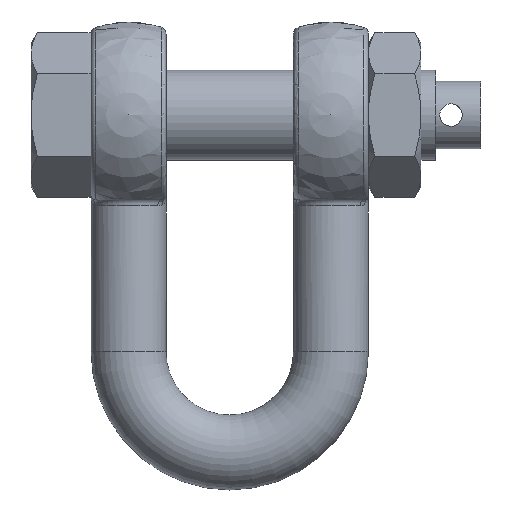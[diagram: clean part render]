
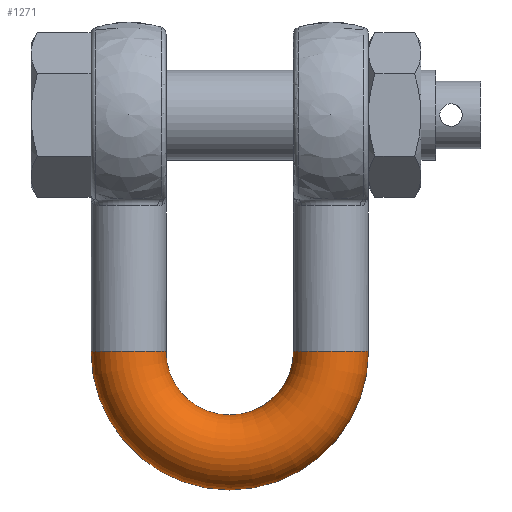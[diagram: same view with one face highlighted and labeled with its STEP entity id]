
A CAD part, top view. The second image highlights one B-rep face of the part: STEP entity #1271.
In plain terms, the highlighted toroidal (fillet/blend) face has major radius 13.5 mm and minor radius 5 mm.
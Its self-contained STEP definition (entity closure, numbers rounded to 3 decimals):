
#122=TOROIDAL_SURFACE('',#1442,13.5,5.);
#233=FACE_OUTER_BOUND('',#320,.T.);
#320=EDGE_LOOP('',(#1018,#1019,#1020,#1021,#1022,#1023));
#477=CIRCLE('',#1440,5.);
#478=CIRCLE('',#1441,5.);
#479=CIRCLE('',#1443,8.5);
#480=CIRCLE('',#1444,5.);
#481=CIRCLE('',#1445,5.);
#570=VERTEX_POINT('',#2836);
#571=VERTEX_POINT('',#2838);
#572=VERTEX_POINT('',#2842);
#573=VERTEX_POINT('',#2844);
#730=EDGE_CURVE('',#570,#571,#477,.T.);
#731=EDGE_CURVE('',#571,#570,#478,.T.);
#732=EDGE_CURVE('',#571,#572,#479,.T.);
#733=EDGE_CURVE('',#572,#573,#480,.T.);
#734=EDGE_CURVE('',#573,#572,#481,.T.);
#1018=ORIENTED_EDGE('',*,*,#731,.F.);
#1019=ORIENTED_EDGE('',*,*,#732,.T.);
#1020=ORIENTED_EDGE('',*,*,#733,.T.);
#1021=ORIENTED_EDGE('',*,*,#734,.T.);
#1022=ORIENTED_EDGE('',*,*,#732,.F.);
#1023=ORIENTED_EDGE('',*,*,#730,.F.);
#1271=ADVANCED_FACE('',(#233),#122,.T.);
#1440=AXIS2_PLACEMENT_3D('',#2839,#1671,#1672);
#1441=AXIS2_PLACEMENT_3D('',#2840,#1673,#1674);
#1442=AXIS2_PLACEMENT_3D('',#2841,#1675,#1676);
#1443=AXIS2_PLACEMENT_3D('',#2843,#1677,#1678);
#1444=AXIS2_PLACEMENT_3D('',#2845,#1679,#1680);
#1445=AXIS2_PLACEMENT_3D('',#2846,#1681,#1682);
#1671=DIRECTION('center_axis',(0.,1.,0.));
#1672=DIRECTION('ref_axis',(1.,0.,0.));
#1673=DIRECTION('center_axis',(0.,1.,0.));
#1674=DIRECTION('ref_axis',(1.,0.,0.));
#1675=DIRECTION('center_axis',(0.,0.,-1.));
#1676=DIRECTION('ref_axis',(-1.,0.,0.));
#1677=DIRECTION('center_axis',(0.,0.,1.));
#1678=DIRECTION('ref_axis',(-1.,0.,0.));
#1679=DIRECTION('center_axis',(0.,-1.,0.));
#1680=DIRECTION('ref_axis',(-1.,0.,0.));
#1681=DIRECTION('center_axis',(0.,-1.,0.));
#1682=DIRECTION('ref_axis',(-1.,0.,0.));
#2836=CARTESIAN_POINT('',(-18.5,18.5,0.));
#2838=CARTESIAN_POINT('',(-8.5,18.5,0.));
#2839=CARTESIAN_POINT('Origin',(-13.5,18.5,0.));
#2840=CARTESIAN_POINT('Origin',(-13.5,18.5,0.));
#2841=CARTESIAN_POINT('Origin',(0.,18.5,0.));
#2842=CARTESIAN_POINT('',(8.5,18.5,0.));
#2843=CARTESIAN_POINT('Origin',(0.,18.5,0.));
#2844=CARTESIAN_POINT('',(18.5,18.5,0.));
#2845=CARTESIAN_POINT('Origin',(13.5,18.5,0.));
#2846=CARTESIAN_POINT('Origin',(13.5,18.5,0.));
